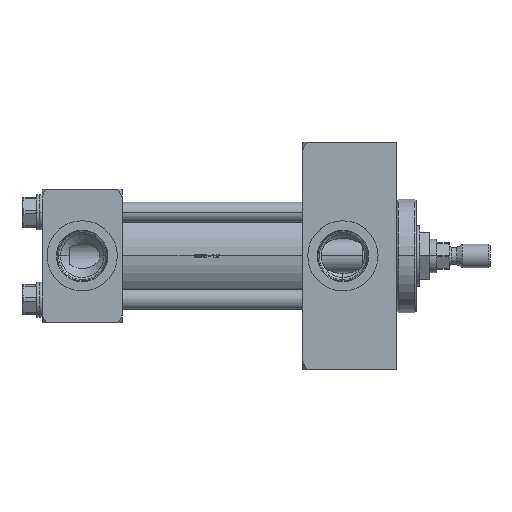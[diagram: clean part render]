
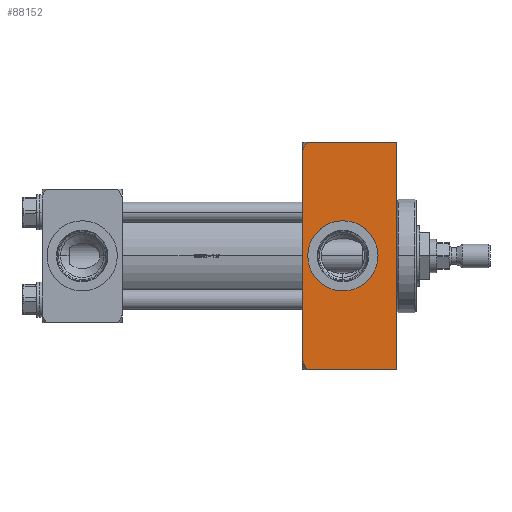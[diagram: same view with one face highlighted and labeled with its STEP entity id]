
A CAD part, top view. The second image highlights one B-rep face of the part: STEP entity #88152.
In plain terms, the highlighted planar face has unit normal (0, 0, 1).
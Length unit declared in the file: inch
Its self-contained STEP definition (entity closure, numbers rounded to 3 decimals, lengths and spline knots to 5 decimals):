
#1442 = CARTESIAN_POINT ( 'NONE',  ( -2.74042, -1.98823, 1.25 ) ) ;
#1650 = EDGE_CURVE ( 'NONE', #27393, #47029, #22108, .T. ) ;
#2017 = CARTESIAN_POINT ( 'NONE',  ( -2.73796, 1.99748, 1.25 ) ) ;
#2492 = PLANE ( 'NONE',  #45422 ) ;
#2878 = CARTESIAN_POINT ( 'NONE',  ( -2.66716, -2.125, 1.25 ) ) ;
#2903 = ORIENTED_EDGE ( 'NONE', *, *, #45782, .F. ) ;
#4223 = VERTEX_POINT ( 'NONE', #72104 ) ;
#4955 = VECTOR ( 'NONE', #20170, 39.37008 ) ;
#5795 = CARTESIAN_POINT ( 'NONE',  ( -2., 0.65625, 1.25 ) ) ;
#6713 = DIRECTION ( 'NONE',  ( 0., 1., 0. ) ) ;
#8358 = CARTESIAN_POINT ( 'NONE',  ( -1., 2.125, 1.25 ) ) ;
#9482 = ORIENTED_EDGE ( 'NONE', *, *, #52980, .F. ) ;
#9506 = CARTESIAN_POINT ( 'NONE',  ( -2.74743, -1.96146, 1.25 ) ) ;
#10775 = VECTOR ( 'NONE', #6713, 39.37008 ) ;
#13676 = CARTESIAN_POINT ( 'NONE',  ( -2.75, -1.925, 1.25 ) ) ;
#17683 = CARTESIAN_POINT ( 'NONE',  ( -2.72757, -2.0226, 1.25 ) ) ;
#17710 = EDGE_LOOP ( 'NONE', ( #65177, #46389, #49952, #9482, #46785, #2903 ) ) ;
#19003 = CIRCLE ( 'NONE', #75426, 0.65625 ) ;
#20170 = DIRECTION ( 'NONE',  ( 1., 0., 0. ) ) ;
#21066 = DIRECTION ( 'NONE',  ( 0., 1., 0. ) ) ;
#21922 = ORIENTED_EDGE ( 'NONE', *, *, #35052, .T. ) ;
#22108 = B_SPLINE_CURVE_WITH_KNOTS ( 'NONE', 3,
 ( #60834, #60353, #39314, #2017, #89914, #66591, #38375, #46456, #88969, #67986 ),
 .UNSPECIFIED., .F., .F.,
 ( 4, 2, 2, 2, 4 ),
 ( 0.00308, 0.00446, 0.00584, 0.00722, 0.0086 ),
 .UNSPECIFIED. ) ;
#22957 = LINE ( 'NONE', #72185, #10775 ) ;
#23597 = CARTESIAN_POINT ( 'NONE',  ( -1., -2.125, 1.25 ) ) ;
#24363 = CARTESIAN_POINT ( 'NONE',  ( -2.73116, -2.0142, 1.25 ) ) ;
#25706 = EDGE_CURVE ( 'NONE', #44156, #71196, #58177, .T. ) ;
#25966 = CARTESIAN_POINT ( 'NONE',  ( -2., 0., 1.25 ) ) ;
#27393 = VERTEX_POINT ( 'NONE', #86165 ) ;
#32219 = DIRECTION ( 'NONE',  ( 0., 0., -1. ) ) ;
#33707 = VERTEX_POINT ( 'NONE', #60387 ) ;
#34578 = CARTESIAN_POINT ( 'NONE',  ( -2.75, 2.125, 1.25 ) ) ;
#35052 = EDGE_CURVE ( 'NONE', #71196, #44156, #19003, .T. ) ;
#35755 = DIRECTION ( 'NONE',  ( 0., 1., 0. ) ) ;
#37813 = CARTESIAN_POINT ( 'NONE',  ( -2.71596, -2.04742, 1.25 ) ) ;
#38266 = CARTESIAN_POINT ( 'NONE',  ( -2.70708, -2.06344, 1.25 ) ) ;
#38375 = CARTESIAN_POINT ( 'NONE',  ( -2.70673, 2.06404, 1.25 ) ) ;
#38574 = DIRECTION ( 'NONE',  ( 1., 0., 0. ) ) ;
#39314 = CARTESIAN_POINT ( 'NONE',  ( -2.74732, 1.96203, 1.25 ) ) ;
#42176 = LINE ( 'NONE', #34578, #4955 ) ;
#44156 = VERTEX_POINT ( 'NONE', #5795 ) ;
#45422 = AXIS2_PLACEMENT_3D ( 'NONE', #93625, #63634, #21066 ) ;
#45782 = EDGE_CURVE ( 'NONE', #46565, #27393, #22957, .T. ) ;
#46389 = ORIENTED_EDGE ( 'NONE', *, *, #86641, .T. ) ;
#46456 = CARTESIAN_POINT ( 'NONE',  ( -2.68773, 2.09511, 1.25 ) ) ;
#46565 = VERTEX_POINT ( 'NONE', #13676 ) ;
#46785 = ORIENTED_EDGE ( 'NONE', *, *, #1650, .F. ) ;
#47029 = VERTEX_POINT ( 'NONE', #93045 ) ;
#47407 = FACE_OUTER_BOUND ( 'NONE', #17710, .T. ) ;
#49952 = ORIENTED_EDGE ( 'NONE', *, *, #56336, .T. ) ;
#50245 = ORIENTED_EDGE ( 'NONE', *, *, #25706, .T. ) ;
#50887 = DIRECTION ( 'NONE',  ( 0., 1., 0. ) ) ;
#52452 = LINE ( 'NONE', #66333, #74279 ) ;
#52980 = EDGE_CURVE ( 'NONE', #47029, #66616, #42176, .T. ) ;
#55992 = B_SPLINE_CURVE_WITH_KNOTS ( 'NONE', 3,
 ( #2878, #74583, #61621, #38266, #37813, #17683, #24363, #66966, #1442, #9506, #75046, #67411 ),
 .UNSPECIFIED., .F., .F.,
 ( 4, 2, 2, 2, 2, 4 ),
 ( 0.00627, 0.00766, 0.00905, 0.00975, 0.01044, 0.01184 ),
 .UNSPECIFIED. ) ;
#56336 = EDGE_CURVE ( 'NONE', #33707, #66616, #82399, .T. ) ;
#58177 = CIRCLE ( 'NONE', #85570, 0.65625 ) ;
#60353 = CARTESIAN_POINT ( 'NONE',  ( -2.75, 1.94349, 1.25 ) ) ;
#60387 = CARTESIAN_POINT ( 'NONE',  ( -1., -2.125, 1.25 ) ) ;
#60834 = CARTESIAN_POINT ( 'NONE',  ( -2.75, 1.925, 1.25 ) ) ;
#61400 = DIRECTION ( 'NONE',  ( 0., 1., 0. ) ) ;
#61621 = CARTESIAN_POINT ( 'NONE',  ( -2.68792, -2.09483, 1.25 ) ) ;
#63634 = DIRECTION ( 'NONE',  ( 0., 0., -1. ) ) ;
#65177 = ORIENTED_EDGE ( 'NONE', *, *, #94267, .F. ) ;
#66333 = CARTESIAN_POINT ( 'NONE',  ( -2.75, -2.125, 1.25 ) ) ;
#66591 = CARTESIAN_POINT ( 'NONE',  ( -2.71565, 2.04804, 1.25 ) ) ;
#66616 = VERTEX_POINT ( 'NONE', #8358 ) ;
#66966 = CARTESIAN_POINT ( 'NONE',  ( -2.73757, -1.99703, 1.25 ) ) ;
#67411 = CARTESIAN_POINT ( 'NONE',  ( -2.75, -1.925, 1.25 ) ) ;
#67986 = CARTESIAN_POINT ( 'NONE',  ( -2.66716, 2.125, 1.25 ) ) ;
#71196 = VERTEX_POINT ( 'NONE', #76685 ) ;
#72104 = CARTESIAN_POINT ( 'NONE',  ( -2.66716, -2.125, 1.25 ) ) ;
#72185 = CARTESIAN_POINT ( 'NONE',  ( -2.75, -2.125, 1.25 ) ) ;
#74126 = EDGE_LOOP ( 'NONE', ( #50245, #21922 ) ) ;
#74279 = VECTOR ( 'NONE', #38574, 39.37008 ) ;
#74583 = CARTESIAN_POINT ( 'NONE',  ( -2.67772, -2.11006, 1.25 ) ) ;
#75046 = CARTESIAN_POINT ( 'NONE',  ( -2.75, -1.94338, 1.25 ) ) ;
#75139 = FACE_BOUND ( 'NONE', #74126, .T. ) ;
#75426 = AXIS2_PLACEMENT_3D ( 'NONE', #88103, #94309, #50887 ) ;
#76685 = CARTESIAN_POINT ( 'NONE',  ( -2., -0.65625, 1.25 ) ) ;
#82399 = LINE ( 'NONE', #23597, #92532 ) ;
#85570 = AXIS2_PLACEMENT_3D ( 'NONE', #25966, #32219, #61400 ) ;
#86165 = CARTESIAN_POINT ( 'NONE',  ( -2.75, 1.925, 1.25 ) ) ;
#86641 = EDGE_CURVE ( 'NONE', #4223, #33707, #52452, .T. ) ;
#88103 = CARTESIAN_POINT ( 'NONE',  ( -2., 0., 1.25 ) ) ;
#88152 = ADVANCED_FACE ( 'NONE', ( #47407, #75139 ), #2492, .F. ) ;
#88969 = CARTESIAN_POINT ( 'NONE',  ( -2.67763, 2.11019, 1.25 ) ) ;
#89914 = CARTESIAN_POINT ( 'NONE',  ( -2.73135, 2.0146, 1.25 ) ) ;
#92532 = VECTOR ( 'NONE', #35755, 39.37008 ) ;
#93045 = CARTESIAN_POINT ( 'NONE',  ( -2.66716, 2.125, 1.25 ) ) ;
#93625 = CARTESIAN_POINT ( 'NONE',  ( -2.75, -2.125, 1.25 ) ) ;
#94267 = EDGE_CURVE ( 'NONE', #4223, #46565, #55992, .T. ) ;
#94309 = DIRECTION ( 'NONE',  ( 0., 0., -1. ) ) ;
